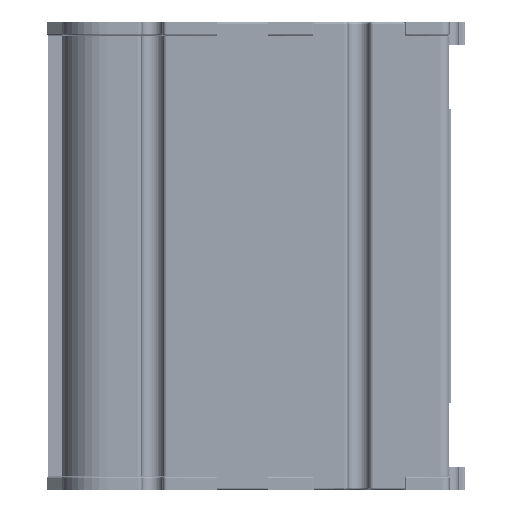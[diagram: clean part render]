
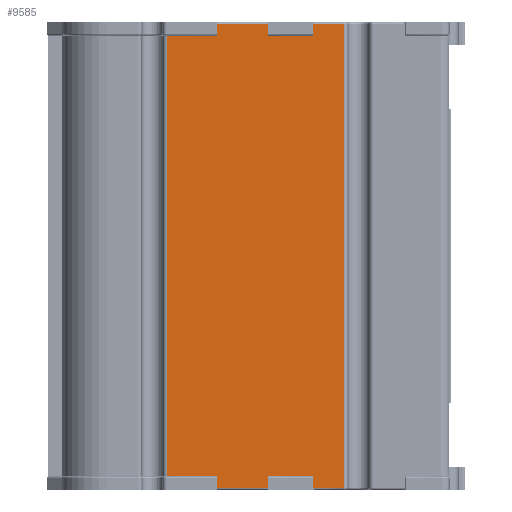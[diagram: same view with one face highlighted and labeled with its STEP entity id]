
A CAD part, left-side view. The second image highlights one B-rep face of the part: STEP entity #9585.
In plain terms, the highlighted planar face has unit normal (-1, 0, 0).
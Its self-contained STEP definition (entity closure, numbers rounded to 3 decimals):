
#9585=ADVANCED_FACE('',(#15061),#13252,.F.);
#13252=PLANE('',#67416);
#15061=FACE_OUTER_BOUND('',#18606,.T.);
#18606=EDGE_LOOP('',(#25245,#25246,#25247,#25248,#25249,#25250,#25251,#25252,
#25253,#25254,#25255,#25256,#25257,#25258,#25259,#25260));
#25245=ORIENTED_EDGE('',*,*,#49877,.F.);
#25246=ORIENTED_EDGE('',*,*,#49878,.T.);
#25247=ORIENTED_EDGE('',*,*,#49879,.F.);
#25248=ORIENTED_EDGE('',*,*,#49880,.T.);
#25249=ORIENTED_EDGE('',*,*,#49881,.F.);
#25250=ORIENTED_EDGE('',*,*,#49882,.T.);
#25251=ORIENTED_EDGE('',*,*,#49883,.T.);
#25252=ORIENTED_EDGE('',*,*,#49884,.T.);
#25253=ORIENTED_EDGE('',*,*,#49885,.F.);
#25254=ORIENTED_EDGE('',*,*,#49886,.T.);
#25255=ORIENTED_EDGE('',*,*,#49887,.F.);
#25256=ORIENTED_EDGE('',*,*,#49888,.T.);
#25257=ORIENTED_EDGE('',*,*,#49889,.F.);
#25258=ORIENTED_EDGE('',*,*,#49890,.T.);
#25259=ORIENTED_EDGE('',*,*,#49891,.T.);
#25260=ORIENTED_EDGE('',*,*,#49892,.T.);
#42919=VERTEX_POINT('',#87480);
#42920=VERTEX_POINT('',#87481);
#42921=VERTEX_POINT('',#87483);
#42922=VERTEX_POINT('',#87485);
#42923=VERTEX_POINT('',#87487);
#42924=VERTEX_POINT('',#87489);
#42925=VERTEX_POINT('',#87491);
#42926=VERTEX_POINT('',#87493);
#42927=VERTEX_POINT('',#87495);
#42928=VERTEX_POINT('',#87497);
#42929=VERTEX_POINT('',#87499);
#42930=VERTEX_POINT('',#87501);
#42931=VERTEX_POINT('',#87503);
#42932=VERTEX_POINT('',#87505);
#42933=VERTEX_POINT('',#87507);
#42934=VERTEX_POINT('',#87509);
#49877=EDGE_CURVE('',#42919,#42920,#59392,.T.);
#49878=EDGE_CURVE('',#42919,#42921,#59393,.T.);
#49879=EDGE_CURVE('',#42922,#42921,#59394,.T.);
#49880=EDGE_CURVE('',#42922,#42923,#59395,.T.);
#49881=EDGE_CURVE('',#42924,#42923,#59396,.T.);
#49882=EDGE_CURVE('',#42924,#42925,#59397,.T.);
#49883=EDGE_CURVE('',#42925,#42926,#59398,.T.);
#49884=EDGE_CURVE('',#42926,#42927,#59399,.T.);
#49885=EDGE_CURVE('',#42928,#42927,#59400,.T.);
#49886=EDGE_CURVE('',#42928,#42929,#59401,.T.);
#49887=EDGE_CURVE('',#42930,#42929,#59402,.T.);
#49888=EDGE_CURVE('',#42930,#42931,#59403,.T.);
#49889=EDGE_CURVE('',#42932,#42931,#59404,.T.);
#49890=EDGE_CURVE('',#42932,#42933,#59405,.T.);
#49891=EDGE_CURVE('',#42933,#42934,#59406,.T.);
#49892=EDGE_CURVE('',#42934,#42920,#59407,.T.);
#59392=LINE('',#87479,#63540);
#59393=LINE('',#87482,#63541);
#59394=LINE('',#87484,#63542);
#59395=LINE('',#87486,#63543);
#59396=LINE('',#87488,#63544);
#59397=LINE('',#87490,#63545);
#59398=LINE('',#87492,#63546);
#59399=LINE('',#87494,#63547);
#59400=LINE('',#87496,#63548);
#59401=LINE('',#87498,#63549);
#59402=LINE('',#87500,#63550);
#59403=LINE('',#87502,#63551);
#59404=LINE('',#87504,#63552);
#59405=LINE('',#87506,#63553);
#59406=LINE('',#87508,#63554);
#59407=LINE('',#87510,#63555);
#63540=VECTOR('',#73885,1.);
#63541=VECTOR('',#73886,1.);
#63542=VECTOR('',#73887,1.);
#63543=VECTOR('',#73888,1.);
#63544=VECTOR('',#73889,1.);
#63545=VECTOR('',#73890,1.);
#63546=VECTOR('',#73891,1.);
#63547=VECTOR('',#73892,1.);
#63548=VECTOR('',#73893,1.);
#63549=VECTOR('',#73894,1.);
#63550=VECTOR('',#73895,1.);
#63551=VECTOR('',#73896,1.);
#63552=VECTOR('',#73897,1.);
#63553=VECTOR('',#73898,1.);
#63554=VECTOR('',#73899,1.);
#63555=VECTOR('',#73900,1.);
#67416=AXIS2_PLACEMENT_3D('',#87511,#73901,#73902);
#73885=DIRECTION('',(0.,0.,1.));
#73886=DIRECTION('',(0.,-1.,0.));
#73887=DIRECTION('',(0.,0.,-1.));
#73888=DIRECTION('',(0.,-1.,0.));
#73889=DIRECTION('',(0.,0.,1.));
#73890=DIRECTION('',(0.,-1.,0.));
#73891=DIRECTION('',(0.,0.,1.));
#73892=DIRECTION('',(0.,1.,0.));
#73893=DIRECTION('',(0.,0.,1.));
#73894=DIRECTION('',(0.,1.,0.));
#73895=DIRECTION('',(0.,0.,-1.));
#73896=DIRECTION('',(0.,1.,0.));
#73897=DIRECTION('',(0.,0.,1.));
#73898=DIRECTION('',(0.,1.,0.));
#73899=DIRECTION('',(0.,0.,-1.));
#73900=DIRECTION('',(0.,-1.,0.));
#73901=DIRECTION('',(1.,0.,0.));
#73902=DIRECTION('',(0.,1.,0.));
#87479=CARTESIAN_POINT('',(4.487,403.534,-103.7));
#87480=CARTESIAN_POINT('',(4.487,403.534,-106.2));
#87481=CARTESIAN_POINT('',(4.487,403.534,-103.7));
#87482=CARTESIAN_POINT('',(4.487,376.684,-106.2));
#87483=CARTESIAN_POINT('',(4.487,392.534,-106.2));
#87484=CARTESIAN_POINT('',(4.487,392.534,-25.1));
#87485=CARTESIAN_POINT('',(4.487,392.534,-103.7));
#87486=CARTESIAN_POINT('',(4.487,376.684,-103.7));
#87487=CARTESIAN_POINT('',(4.487,382.934,-103.7));
#87488=CARTESIAN_POINT('',(4.487,382.934,-103.7));
#87489=CARTESIAN_POINT('',(4.487,382.934,-106.2));
#87490=CARTESIAN_POINT('',(4.487,376.684,-106.2));
#87491=CARTESIAN_POINT('',(4.487,376.384,-106.2));
#87492=CARTESIAN_POINT('',(4.487,376.384,-68.5));
#87493=CARTESIAN_POINT('',(4.487,376.384,-7.4));
#87494=CARTESIAN_POINT('',(4.487,382.934,-7.4));
#87495=CARTESIAN_POINT('',(4.487,382.934,-7.4));
#87496=CARTESIAN_POINT('',(4.487,382.934,-68.5));
#87497=CARTESIAN_POINT('',(4.487,382.934,-9.9));
#87498=CARTESIAN_POINT('',(4.487,376.684,-9.9));
#87499=CARTESIAN_POINT('',(4.487,392.534,-9.9));
#87500=CARTESIAN_POINT('',(4.487,392.534,-68.5));
#87501=CARTESIAN_POINT('',(4.487,392.534,-7.4));
#87502=CARTESIAN_POINT('',(4.487,403.534,-7.4));
#87503=CARTESIAN_POINT('',(4.487,403.534,-7.4));
#87504=CARTESIAN_POINT('',(4.487,403.534,-68.5));
#87505=CARTESIAN_POINT('',(4.487,403.534,-9.9));
#87506=CARTESIAN_POINT('',(4.487,376.684,-9.9));
#87507=CARTESIAN_POINT('',(4.487,414.184,-9.9));
#87508=CARTESIAN_POINT('',(4.487,414.184,-68.5));
#87509=CARTESIAN_POINT('',(4.487,414.184,-103.7));
#87510=CARTESIAN_POINT('',(4.487,376.684,-103.7));
#87511=CARTESIAN_POINT('',(4.487,376.684,-68.5));
